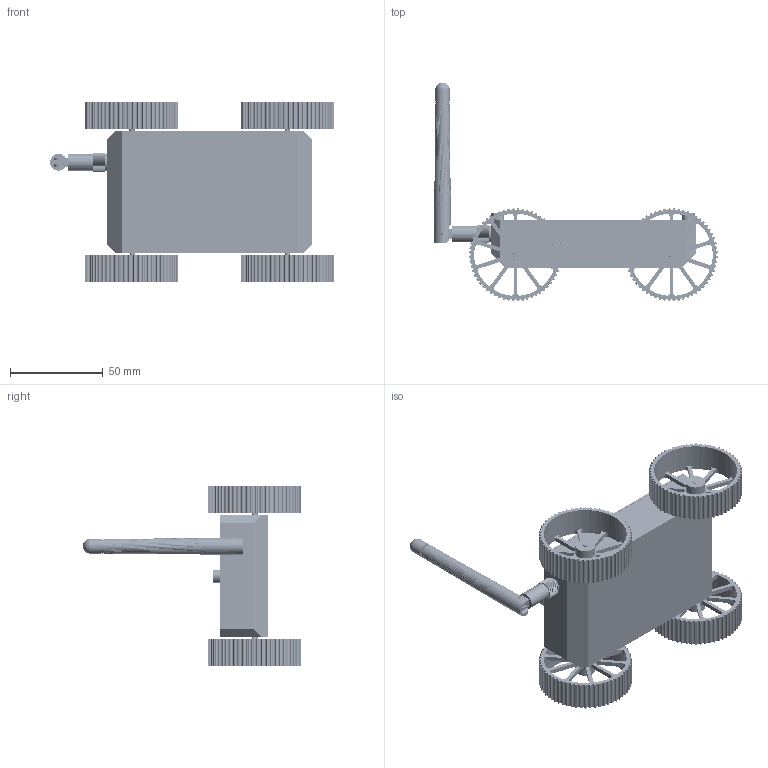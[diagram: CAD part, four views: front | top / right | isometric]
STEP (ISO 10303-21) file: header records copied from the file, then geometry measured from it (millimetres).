
FILE_DESCRIPTION(/* description */ (''),/* implementation_level */ '2;1');
FILE_NAME(/* name */ '4x4 rover.step',/* time_stamp */ '2025-05-21T08:21:26+05:30',/* author */ (''),/* organization */ (''),/* preprocessor_version */ 'ST-DEVELOPER v20.1',/* originating_system */ 'Autodesk Translation Framework v14.4.0.0',/* authorisation */ '');
FILE_SCHEMA (('AUTOMOTIVE_DESIGN { 1 0 10303 214 3 1 1 }'));
Products named in the file (70): rc car; n20 Motor v1; Engrenagens retas2; Engrenagens retas1; Engrenagens retas5; Engrenagens retas7; Engrenagens retas8; n20 Motor v1_1; Engrenagens retas2_1; Engrenagens retas1_1; Engrenagens retas5_1; Engrenagens retas7_1; Engrenagens retas8_1; n20 Motor v1_2; Engrenagens retas2_2; Engrenagens retas1_2; Engrenagens retas5_2; Engrenagens retas7_2; Engrenagens retas8_2; n20 Motor v1_3; Base; Rotor; Apoio Contato; Contato; Suporte Contato; Imãs; Terminais; Escovas; Chapa Inferior; Chapa Intermediária; Chapa Superior; Eixo Maior - Engrenagem; Eixo Médio - Engrenagem; Parafuso; Suporte Bobinas; Eixo Menor - Engrenagem; Engrenagens retas2_3; Engrenagem reta12; Engrenagem reta22; Engrenagens retas1_3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
Assembly tree (166 placements, depth 4):
  rc car
    n20 Motor v1
      Base
      Rotor
      Apoio Contato
      Contato
      Suporte Contato
      Imãs
      Terminais  x2
      Escovas
      Chapa Inferior
      Chapa Intermediária
      Chapa Superior
      Eixo Maior - Engrenagem
      Eixo Médio - Engrenagem
      Parafuso  x2
      Suporte Bobinas
      Eixo Menor - Engrenagem
      Engrenagens retas2
        Engrenagem reta12
        Engrenagem reta22
      Engrenagens retas1
        Engrenagem reta11
        Engrenagem reta21
      Eixo - Encaixe D
      Engrenagens retas5
        Engrenagem reta15
        Engrenagem reta25
      Engrenagens retas7
        Engrenagem reta17
        Engrenagem reta27
      Engrenagens retas8
        Engrenagem reta18
        Engrenagem reta28
      Carcaça
    n20 Motor v1_1
      Base
      Rotor
      Apoio Contato
      Contato
      Suporte Contato
      Imãs
      Terminais  x2
      Escovas
      Chapa Inferior
      Chapa Intermediária
      Chapa Superior
      Eixo Maior - Engrenagem
      Eixo Médio - Engrenagem
      Parafuso  x2
      Suporte Bobinas
      Eixo Menor - Engrenagem
      Engrenagens retas2_1
        Engrenagem reta12
        Engrenagem reta22
      Engrenagens retas1_1
        Engrenagem reta11
        Engrenagem reta21
      Eixo - Encaixe D
      Engrenagens retas5_1
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Bounding box: 152.78 x 117.59 x 97.46 mm (x, y, z)
Volume: 94057.8 mm3; surface area: 117202.4 mm2
Topology: 178 solids, 218 shells, 12368 faces, 34771 edges, 22999 vertices
Faces by surface type: cylinder 8374, plane 3507, bspline 379, torus 40, cone 35, sphere 33
Full cylindrical faces by diameter (mm): 0.1 x24, 0.6 x3, 0.804 x1, 0.9 x68, 1 x56, 1.2 x4, 1.25 x12, 1.273 x4, 1.4 x1, 1.5 x48, 1.6 x8, 1.8 x8, 2 x8, 2.2 x1, 2.489 x4, 2.492 x10, 2.5 x24, 3 x32, 3.2 x4, 3.25 x8, 3.808 x1, 4 x19, 4.15 x1, 4.446 x4, 4.992 x1, 5 x8, 5.05 x2, 5.1 x2, 6.44 x1, 6.5 x4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
Entity records: 183980 total; most frequent: CARTESIAN_POINT 47231, DIRECTION 29328, ORIENTED_EDGE 27988, EDGE_CURVE 13994, AXIS2_PLACEMENT_3D 11179, VERTEX_POINT 9269, LINE 6970, VECTOR 6970
